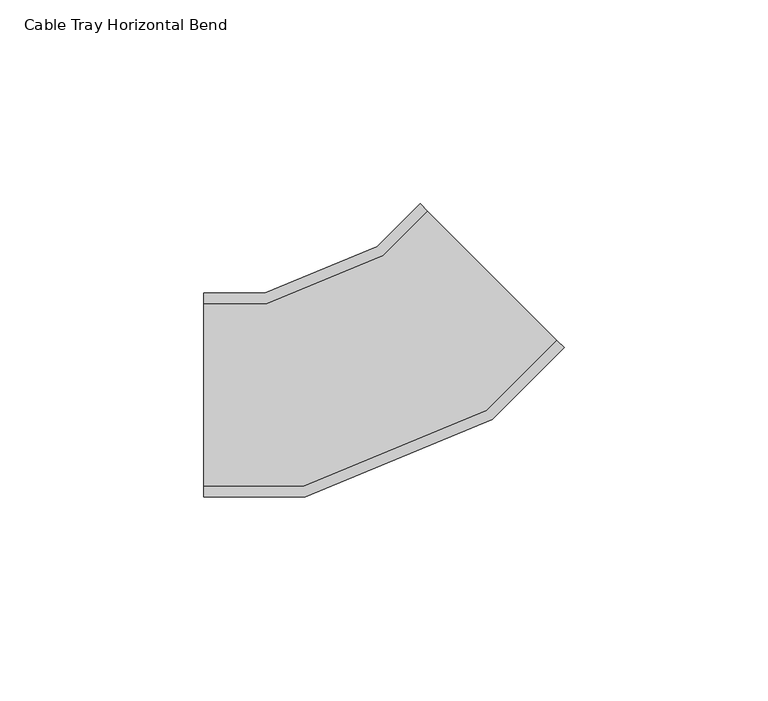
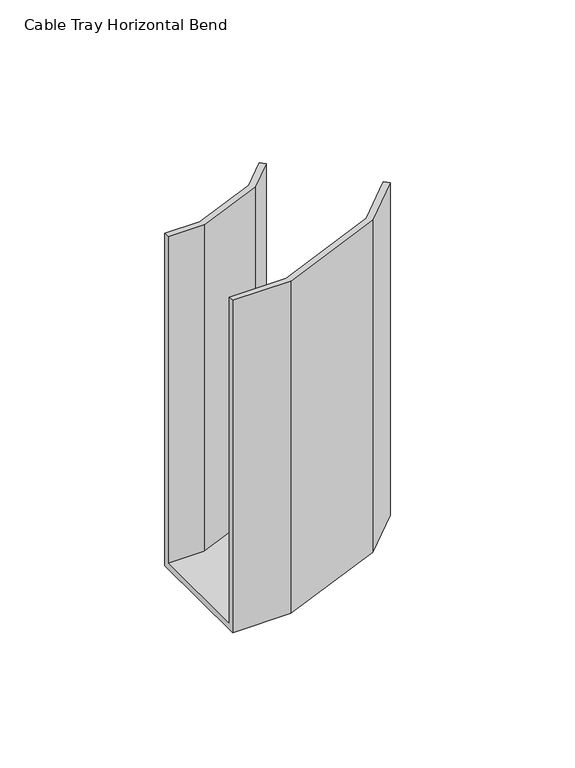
"""IFC4 building model written with IfcOpenShell, lengths in millimetres: cable carrier fitting geometry, Cable Tray Horizontal Bend : ELEC_ELV_CT_N2402."""

from ifc_helpers import new_model, si_unit, origin, place, context, project, spatial, faceted_brep, source, transform, mapped, element, save


def cable_tray_horizontal_bend_fe87960c(model_context):
    return source(origin(), model_context, "Body", "Brep", [
        faceted_brep([(-41.4213562, -25.0, -75.0), (-41.4213562, -25.0, 75.0), (-41.4213562, -22.46, 75.0), (-41.4213562, -22.46, -72.46), (-41.4213562, 22.46, -72.46), (-41.4213562, 22.46, 75.0), (-41.4213562, 25.0, 75.0), (-41.4213562, 25.0, -75.0), (46.9669914, 11.6116524, -75.0), (11.6116524, 46.9669914, -75.0), (11.6116524, 46.9669914, 75.0), (13.4077036, 45.1709402, 75.0), (13.4077036, 45.1709402, -72.46), (45.1709402, 13.4077036, -72.46), (45.1709402, 13.4077036, 75.0), (46.9669914, 11.6116524, 75.0), (-16.5573103, -25.0, -75.0), (-16.5573103, -25.0, 75.0), (29.3854559, -5.9698831, 75.0), (27.9466615, -3.8165751, 75.0), (-17.0625477, -22.46, 75.0), (-17.0625477, -22.46, -72.46), (27.9466615, -3.8165751, -72.46), (2.5015255, 34.2647621, -72.46), (-25.9976913, 22.46, -72.46), (-25.9976913, 22.46, 75.0), (2.5015255, 34.2647621, 75.0), (1.0627311, 36.4180701, 75.0), (-26.5029287, 25.0, 75.0), (-26.5029287, 25.0, -75.0), (1.0627311, 36.4180701, -75.0), (29.3854559, -5.9698831, -75.0)], [[[0, 1, 2, 3, 4, 5, 6, 7]], [[8, 9, 10, 11, 12, 13, 14, 15]], [[1, 0, 16, 17]], [[2, 1, 17, 18, 15, 14, 19, 20]], [[3, 2, 20, 21]], [[4, 3, 21, 22, 13, 12, 23, 24]], [[5, 4, 24, 25]], [[6, 5, 25, 26, 11, 10, 27, 28]], [[7, 6, 28, 29]], [[0, 7, 29, 30, 9, 8, 31, 16]], [[17, 16, 31, 18]], [[21, 20, 19, 22]], [[25, 24, 23, 26]], [[29, 28, 27, 30]], [[18, 31, 8, 15]], [[22, 19, 14, 13]], [[26, 23, 12, 11]], [[30, 27, 10, 9]]]),
    ])


if __name__ == "__main__":
    model = new_model("IFC4")
    model_context = context("Model", 3, world=origin())
    ifc_project = project(units=[si_unit("LENGTHUNIT", "METRE", prefix="MILLI")], contexts=[model_context])
    site = spatial("IfcSite", under=ifc_project)
    building = spatial("IfcBuilding", under=site)
    placement = place(None, origin())
    cable_tray_horizontal_bend_shape = cable_tray_horizontal_bend_fe87960c(model_context)
    element("IfcCableCarrierFitting", 1, ObjectType="Cable Tray Horizontal Bend : ELEC_ELV_CT_N2402", at=placement, inside=building, context=model_context, shape_type="MappedRepresentation", body=[
        mapped(cable_tray_horizontal_bend_shape, transform((0.0, 0.0, 0.0), x_axis=(1.0, 0.0, 0.0), y_axis=(0.0, 1.0, 0.0), z_axis=(0.0, 0.0, 1.0))),
    ])
    save(model, "model.ifc")
